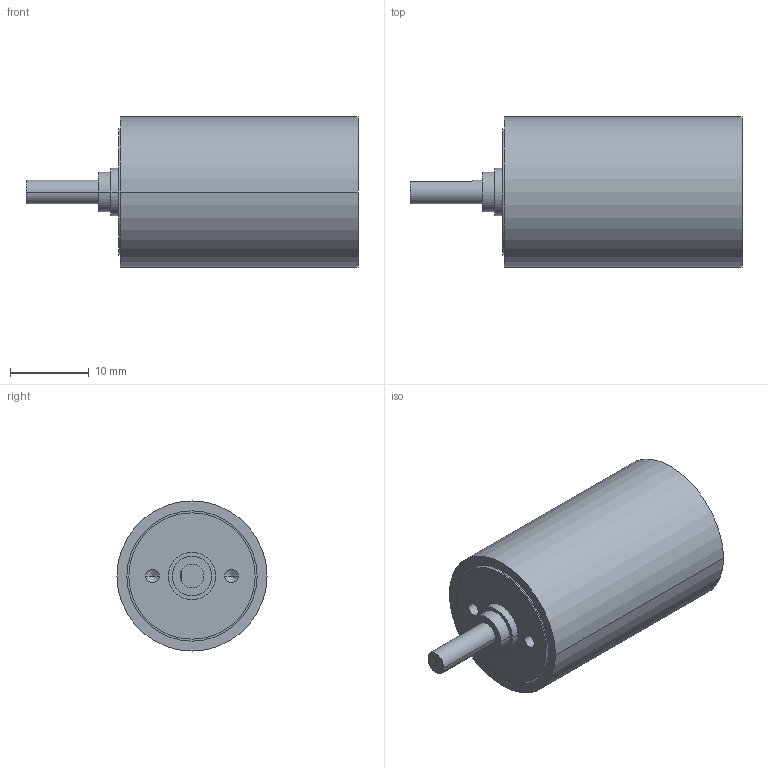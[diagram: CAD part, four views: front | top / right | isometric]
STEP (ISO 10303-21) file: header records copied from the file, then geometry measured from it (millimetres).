
FILE_DESCRIPTION((''),'2;1');
FILE_NAME('1682081','2016-10-04T',('mmagvisi'),(''),'CREO PARAMETRIC BY PTC INC, 2016050','CREO PARAMETRIC BY PTC INC, 2016050','');
FILE_SCHEMA(('CONFIG_CONTROL_DESIGN'));
Length unit declared in the file: millimetre
Products named in the file (1): 1682081
Bounding box: 42.05 x 19 x 19 mm (x, y, z)
Volume: 8035.2 mm3; surface area: 2883.7 mm2
Topology: 1 solids, 1 shells, 35 faces, 78 edges, 50 vertices
Faces by surface type: cylinder 20, plane 11, cone 4
Entity records: 1071 total; most frequent: DIRECTION 184, CARTESIAN_POINT 164, ORIENTED_EDGE 148, AXIS2_PLACEMENT_3D 77, EDGE_CURVE 74, COLOUR_RGB 58, VERTEX_POINT 50, EDGE_LOOP 44
